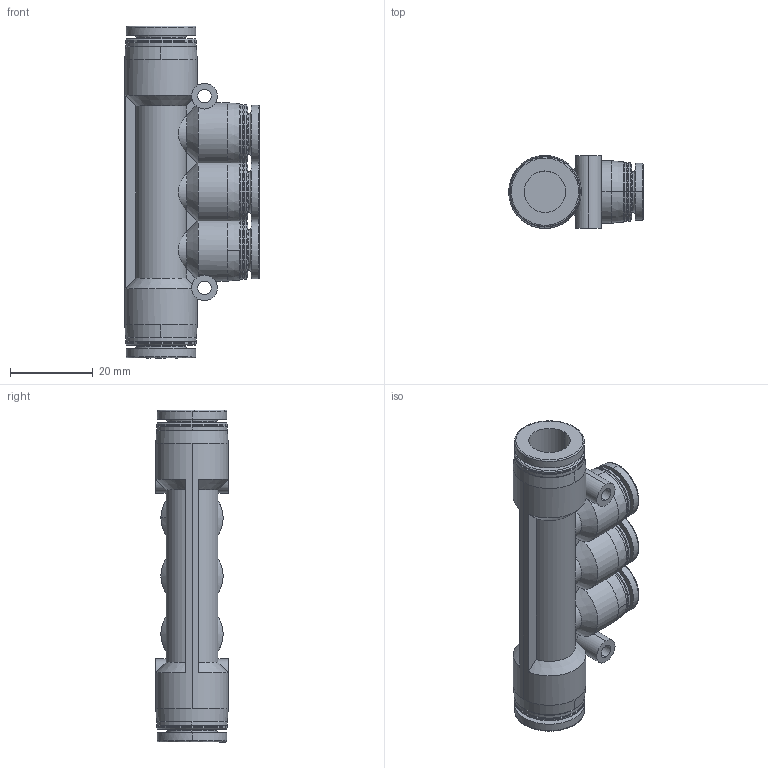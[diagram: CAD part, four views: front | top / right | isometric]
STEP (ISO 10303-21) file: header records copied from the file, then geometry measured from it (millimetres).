
FILE_DESCRIPTION (( 'STEP AP214' ), '1' );
FILE_NAME ('APKG10-8.STEP', '2019-12-06T01:21:06', ( '微软用户' ), ( '微软中国' ), 'SwSTEP 2.0', 'SolidWorks 2016', '' );
FILE_SCHEMA (( 'AUTOMOTIVE_DESIGN' ));
Length unit declared in the file: millimetre
Products named in the file (1): APKG10-8
Bounding box: 32.45 x 17.5 x 80 mm (x, y, z)
Volume: 16909.7 mm3; surface area: 11298.5 mm2
Topology: 1 solids, 1 shells, 198 faces, 481 edges, 305 vertices
Faces by surface type: cylinder 73, cone 68, plane 37, bspline 20
Entity records: 7436 total; most frequent: CARTESIAN_POINT 2784, DIRECTION 1008, ORIENTED_EDGE 962, EDGE_CURVE 481, AXIS2_PLACEMENT_3D 431, VERTEX_POINT 305, CIRCLE 252, EDGE_LOOP 222
